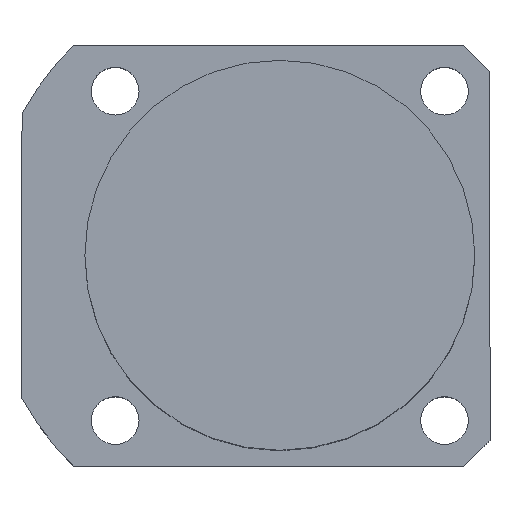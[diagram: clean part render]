
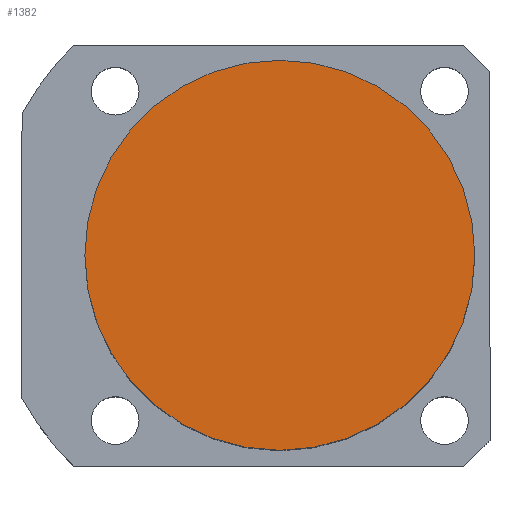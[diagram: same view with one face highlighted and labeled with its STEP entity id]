
A CAD part, top view. The second image highlights one B-rep face of the part: STEP entity #1382.
In plain terms, the highlighted planar face has unit normal (0, 0, 1).
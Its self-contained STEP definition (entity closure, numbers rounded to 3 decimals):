
#98 = CARTESIAN_POINT ( 'NONE',  ( 0., 0., 94.5 ) ) ;
#118 = DIRECTION ( 'NONE',  ( 1., 0., 0. ) ) ;
#165 = CIRCLE ( 'NONE', #478, 45. ) ;
#181 = DIRECTION ( 'NONE',  ( 1., 0., 0. ) ) ;
#218 = AXIS2_PLACEMENT_3D ( 'NONE', #98, #1001, #118 ) ;
#355 = FACE_OUTER_BOUND ( 'NONE', #1141, .T. ) ;
#478 = AXIS2_PLACEMENT_3D ( 'NONE', #1083, #1526, #1091 ) ;
#643 = CARTESIAN_POINT ( 'NONE',  ( 0., 0., 94.5 ) ) ;
#688 = VERTEX_POINT ( 'NONE', #1015 ) ;
#713 = PLANE ( 'NONE',  #1913 ) ;
#807 = CIRCLE ( 'NONE', #218, 45. ) ;
#1001 = DIRECTION ( 'NONE',  ( 0., 0., 1. ) ) ;
#1004 = ORIENTED_EDGE ( 'NONE', *, *, #1069, .T. ) ;
#1015 = CARTESIAN_POINT ( 'NONE',  ( -45., 0., 94.5 ) ) ;
#1069 = EDGE_CURVE ( 'NONE', #1120, #688, #807, .T. ) ;
#1083 = CARTESIAN_POINT ( 'NONE',  ( 0., 0., 94.5 ) ) ;
#1091 = DIRECTION ( 'NONE',  ( 1., 0., 0. ) ) ;
#1120 = VERTEX_POINT ( 'NONE', #1588 ) ;
#1141 = EDGE_LOOP ( 'NONE', ( #1381, #1004 ) ) ;
#1381 = ORIENTED_EDGE ( 'NONE', *, *, #1592, .T. ) ;
#1382 = ADVANCED_FACE ( 'NONE', ( #355 ), #713, .T. ) ;
#1526 = DIRECTION ( 'NONE',  ( 0., 0., 1. ) ) ;
#1588 = CARTESIAN_POINT ( 'NONE',  ( 45., 0., 94.5 ) ) ;
#1592 = EDGE_CURVE ( 'NONE', #688, #1120, #165, .T. ) ;
#1913 = AXIS2_PLACEMENT_3D ( 'NONE', #643, #1925, #181 ) ;
#1925 = DIRECTION ( 'NONE',  ( 0., 0., 1. ) ) ;
